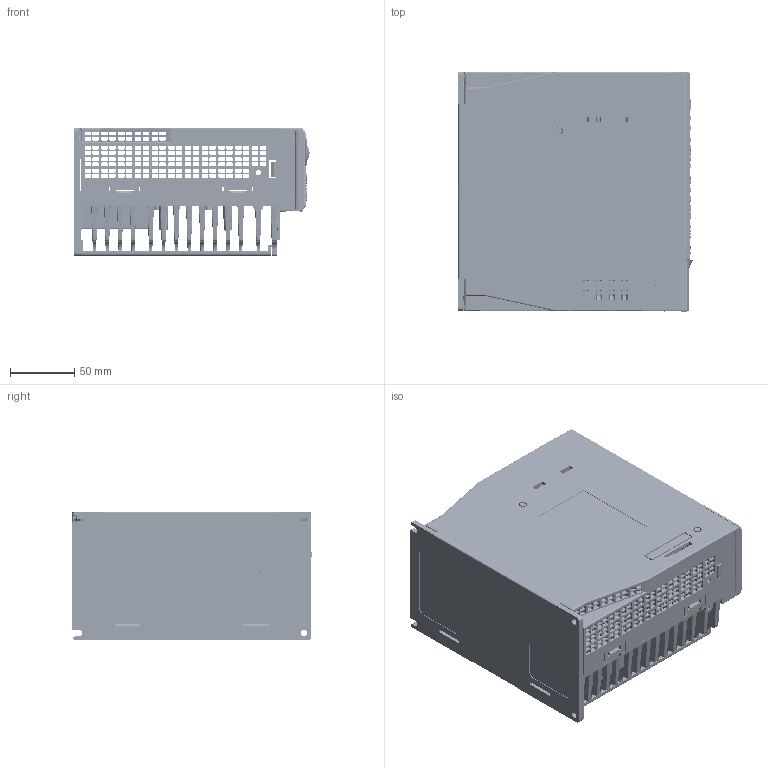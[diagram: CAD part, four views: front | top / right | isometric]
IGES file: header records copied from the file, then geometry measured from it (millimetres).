
Start section: SolidWorks IGES file using analytic representation for surfaces
Global section: file name: Z:\Products\Servo\Servo Drive\PRONET-10DEG-EC\UMD-00[10-20]E-B3_UMD-00[15-20]C-B3 CAD Files\UMD-00[10-20]E-B3_UMD-00[15-20]C-B3.IGS; native system: SolidWorks 2017; preprocessor: SolidWorks 2017; author: laorb; date: 190417.152444; units: millimetre
Bounding box: 182.88 x 186.73 x 100 mm (x, y, z)
Surface area: 346718.6 mm2 (no closed solid volume)
Topology: 0 solids, 0 shells, 6324 faces, 58531 edges, 58517 vertices
Faces by surface type: bspline 4280, revolution 2044
